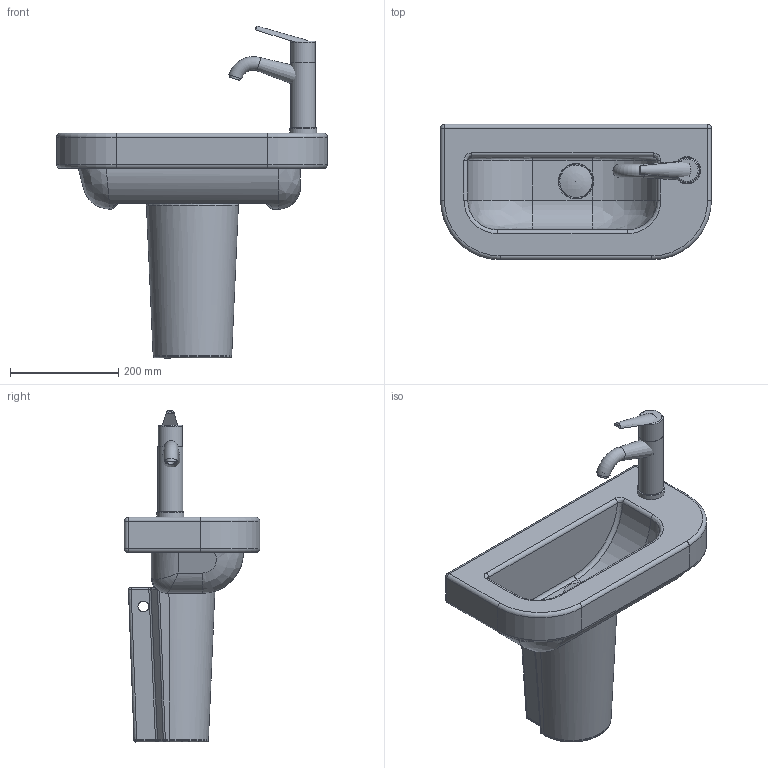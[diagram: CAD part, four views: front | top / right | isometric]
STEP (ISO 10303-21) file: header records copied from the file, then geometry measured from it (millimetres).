
FILE_DESCRIPTION((''),'2;1');
FILE_NAME('C:\Dokumente und Einstellungen\Huebner\Eigene Dateien\Kordinaten_2\STEP\041850_086388.stp','2008-11-20T22:31:19',('Huebner'),(''),'Autodesk Inventor 11','Autodesk Inventor 11','');
FILE_SCHEMA(('AUTOMOTIVE_DESIGN { 1 0 10303 214 1 1 1 1 }'));
Length unit declared in the file: millimetre
Products named in the file (11): 041850_086388; 041850; Stopfen; Kelch; Hebelkurz_1; heb06.12; heb206.12; Neoperl; hebel1; Griff; 086388
Assembly tree (10 placements, depth 3):
  041850_086388
    041850
    Stopfen
    Kelch
    Hebelkurz_1
      heb06.12
      heb206.12
      Neoperl
      hebel1
      Griff
    086388
Bounding box: 500 x 250 x 612.84 mm (x, y, z)
Volume: 7143311.8 mm3; surface area: 845993.6 mm2
Topology: 9 solids, 9 shells, 255 faces, 595 edges, 355 vertices
Faces by surface type: cylinder 105, plane 76, bspline 41, torus 22, sphere 6, cone 5
Full cylindrical faces by diameter (mm): 16 x1, 20 x6, 35 x2, 42 x1, 44 x1, 45 x1, 46 x1, 50 x1, 52 x1, 60 x1, 75 x1
Entity records: 12405 total; most frequent: CARTESIAN_POINT 6494, DIRECTION 1240, ORIENTED_EDGE 1114, EDGE_CURVE 557, AXIS2_PLACEMENT_3D 501, VERTEX_POINT 351, EDGE_LOOP 304, FACE_OUTER_BOUND 255
